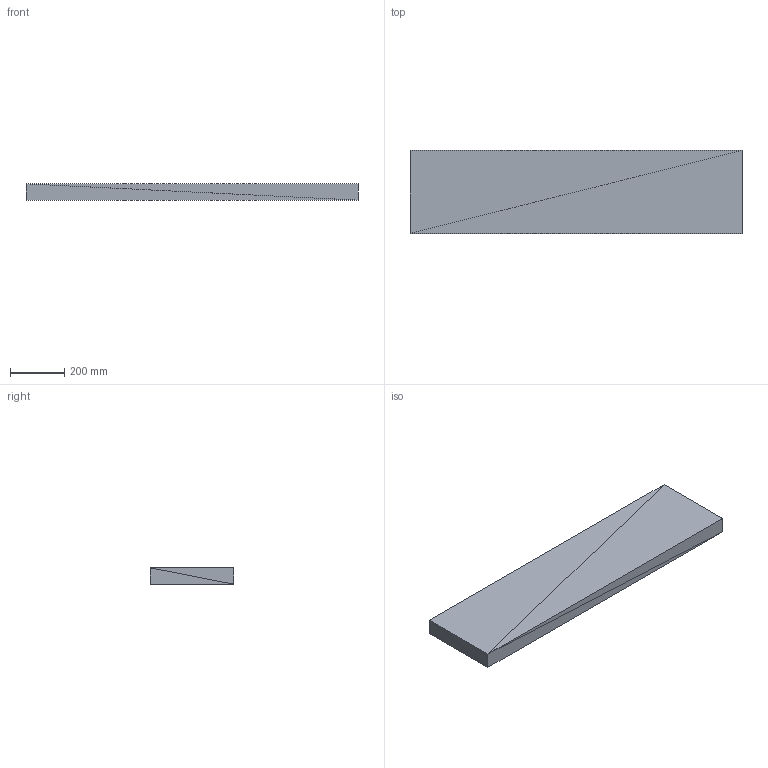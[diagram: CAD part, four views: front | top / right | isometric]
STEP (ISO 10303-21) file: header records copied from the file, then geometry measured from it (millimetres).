
FILE_DESCRIPTION(('ISINAC STEP AP214'),'2;1');
FILE_NAME('ISINAC_R.1220.305_60mm_ADHESIVO','2026-05-03T10:49:19',('ISINAC'),('www.isinac.com'),'ISINAC BIM Generator 1.0','','');
FILE_SCHEMA(('AUTOMOTIVE_DESIGN'));
Length unit declared in the file: millimetre
Products named in the file (1): ISINAC_R.1220.305_60mm_ADHESIVO
Bounding box: 1220 x 305 x 60 mm (x, y, z)
Surface area: 927200 mm2 (no closed solid volume)
Topology: 0 solids, 12 shells, 12 faces, 36 edges, 36 vertices
Faces by surface type: plane 12
Entity records: 145 total; most frequent: CARTESIAN_POINT 48, DIRECTION 24, POLY_LOOP 12, FACE_OUTER_BOUND 12, AXIS2_PLACEMENT_3D 12, PLANE 12, FACE_SURFACE 12, CLOSED_SHELL 1
